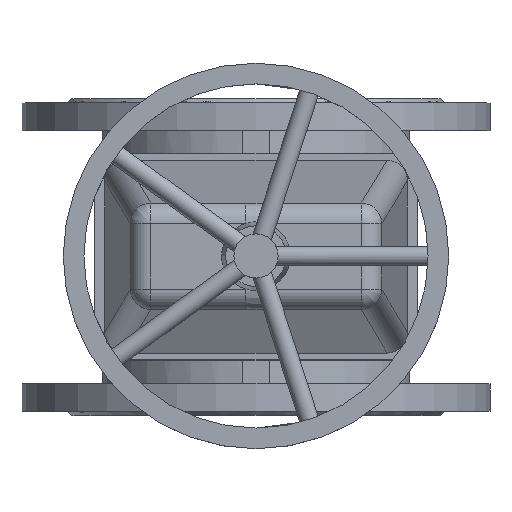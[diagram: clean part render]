
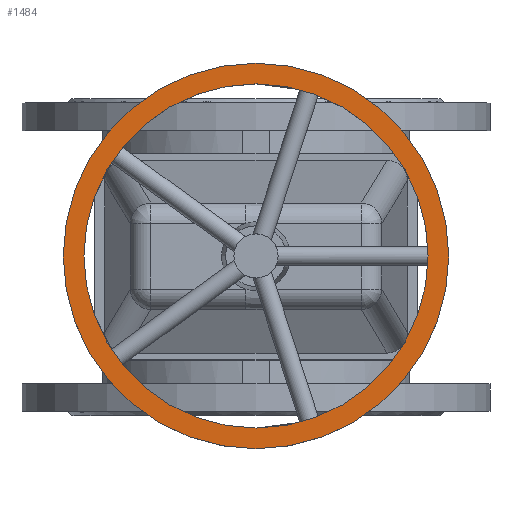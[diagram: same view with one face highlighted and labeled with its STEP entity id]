
A CAD part, top view. The second image highlights one B-rep face of the part: STEP entity #1484.
In plain terms, the highlighted planar face has unit normal (0, 0, 1).
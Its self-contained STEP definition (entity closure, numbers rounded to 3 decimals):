
#1484=ADVANCED_FACE('',(#3162,#3164),#3166,.T.);
#3162=FACE_BOUND('',#3163,.T.);
#3163=EDGE_LOOP('',(#4095));
#3164=FACE_BOUND('',#3165,.T.);
#3165=EDGE_LOOP('',(#4096));
#3166=PLANE('',#3167);
#3167=AXIS2_PLACEMENT_3D('',#3168,#3169,#3170);
#3168=CARTESIAN_POINT('',(0.,0.,524.5));
#3169=DIRECTION('',(0.,0.,1.));
#3170=DIRECTION('',(0.,-1.,0.));
#4095=ORIENTED_EDGE('',*,*,#4555,.T.);
#4096=ORIENTED_EDGE('',*,*,#4553,.T.);
#4553=EDGE_CURVE('',#5309,#5309,#5310,.F.);
#4555=EDGE_CURVE('',#5313,#5313,#5314,.T.);
#5309=VERTEX_POINT('',#9962);
#5310=CIRCLE('',#9963,125.);
#5313=VERTEX_POINT('',#9972);
#5314=CIRCLE('',#9973,140.);
#9962=CARTESIAN_POINT('',(0.,-125.,524.5));
#9963=AXIS2_PLACEMENT_3D('',#9964,#9965,#9966);
#9964=CARTESIAN_POINT('',(0.,0.,524.5));
#9965=DIRECTION('',(0.,0.,1.));
#9966=DIRECTION('',(0.,-1.,0.));
#9972=CARTESIAN_POINT('',(0.,-140.,524.5));
#9973=AXIS2_PLACEMENT_3D('',#9974,#9975,#9976);
#9974=CARTESIAN_POINT('',(0.,0.,524.5));
#9975=DIRECTION('',(0.,0.,1.));
#9976=DIRECTION('',(0.,-1.,0.));
